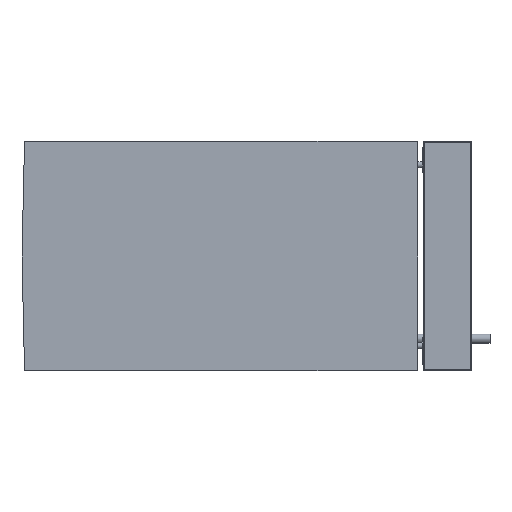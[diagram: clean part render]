
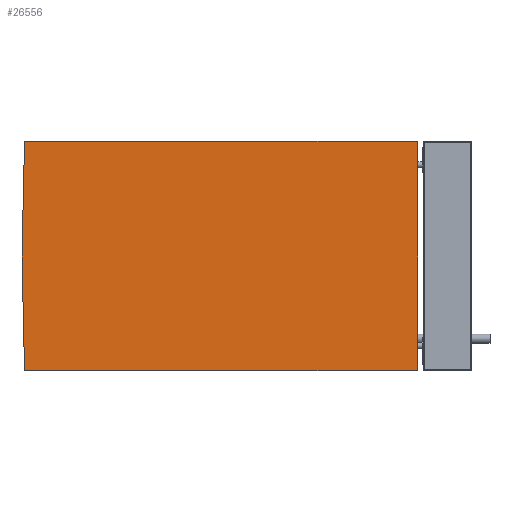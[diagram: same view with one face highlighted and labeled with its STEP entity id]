
A CAD part, left-side view. The second image highlights one B-rep face of the part: STEP entity #26556.
In plain terms, the highlighted planar face has unit normal (-1, 0, 0).
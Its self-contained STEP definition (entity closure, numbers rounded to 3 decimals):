
#1153 = CARTESIAN_POINT ( 'NONE',  ( -575., 1232.738, 0. ) ) ;
#2104 = CARTESIAN_POINT ( 'NONE',  ( -575., 1222.101, 357.478 ) ) ;
#2911 = CIRCLE ( 'NONE', #22946, 2.9 ) ;
#3045 = DIRECTION ( 'NONE',  ( 1., 0., 0. ) ) ;
#3527 = EDGE_CURVE ( 'NONE', #8939, #20782, #12395, .T. ) ;
#4607 = ORIENTED_EDGE ( 'NONE', *, *, #23964, .F. ) ;
#4679 = VECTOR ( 'NONE', #32983, 1000. ) ;
#4836 = VECTOR ( 'NONE', #9681, 1000. ) ;
#5276 = AXIS2_PLACEMENT_3D ( 'NONE', #19622, #3045, #22973 ) ;
#5570 = AXIS2_PLACEMENT_3D ( 'NONE', #23987, #10142, #29737 ) ;
#5662 = CARTESIAN_POINT ( 'NONE',  ( -575., 1222.101, -354.578 ) ) ;
#6937 = EDGE_CURVE ( 'NONE', #35173, #8939, #29107, .T. ) ;
#7478 = EDGE_CURVE ( 'NONE', #14083, #26899, #21479, .T. ) ;
#7587 = VECTOR ( 'NONE', #28577, 1000. ) ;
#7640 = ORIENTED_EDGE ( 'NONE', *, *, #20721, .F. ) ;
#7700 = ORIENTED_EDGE ( 'NONE', *, *, #36523, .F. ) ;
#8939 = VERTEX_POINT ( 'NONE', #15991 ) ;
#9681 = DIRECTION ( 'NONE',  ( 0., 0., -1. ) ) ;
#10142 = DIRECTION ( 'NONE',  ( 1., 0., 0. ) ) ;
#10476 = LINE ( 'NONE', #21707, #4679 ) ;
#10799 = DIRECTION ( 'NONE',  ( 1., 0., 0. ) ) ;
#12306 = EDGE_CURVE ( 'NONE', #12785, #35173, #12724, .T. ) ;
#12395 = CIRCLE ( 'NONE', #5276, 2. ) ;
#12510 = DIRECTION ( 'NONE',  ( -1., 0., 0. ) ) ;
#12724 = CIRCLE ( 'NONE', #31546, 2. ) ;
#12785 = VERTEX_POINT ( 'NONE', #33605 ) ;
#13116 = CARTESIAN_POINT ( 'NONE',  ( -575., 1222.101, -357.478 ) ) ;
#13816 = VECTOR ( 'NONE', #35356, 1000. ) ;
#14083 = VERTEX_POINT ( 'NONE', #32049 ) ;
#14224 = CARTESIAN_POINT ( 'NONE',  ( -575., 0., 355.5 ) ) ;
#15991 = CARTESIAN_POINT ( 'NONE',  ( -575., 0., -355.5 ) ) ;
#17098 = DIRECTION ( 'NONE',  ( 0., 0., 1. ) ) ;
#18199 = PLANE ( 'NONE',  #30982 ) ;
#18220 = ORIENTED_EDGE ( 'NONE', *, *, #12306, .F. ) ;
#18352 = DIRECTION ( 'NONE',  ( 0., 0., 1. ) ) ;
#18359 = EDGE_CURVE ( 'NONE', #23861, #14083, #10476, .T. ) ;
#18595 = ORIENTED_EDGE ( 'NONE', *, *, #30820, .F. ) ;
#19238 = LINE ( 'NONE', #33105, #13816 ) ;
#19485 = CARTESIAN_POINT ( 'NONE',  ( -575., 1222.101, -357.478 ) ) ;
#19622 = CARTESIAN_POINT ( 'NONE',  ( -575., 2., -355.5 ) ) ;
#20169 = CARTESIAN_POINT ( 'NONE',  ( -575., 0., -355.5 ) ) ;
#20512 = EDGE_LOOP ( 'NONE', ( #18220, #7640, #31234, #22920, #4607, #18595, #7700, #30603, #27375 ) ) ;
#20721 = EDGE_CURVE ( 'NONE', #26899, #12785, #19238, .T. ) ;
#20782 = VERTEX_POINT ( 'NONE', #29255 ) ;
#21479 = CIRCLE ( 'NONE', #5570, 2.9 ) ;
#21707 = CARTESIAN_POINT ( 'NONE',  ( -575., 1225., 354.642 ) ) ;
#22022 = DIRECTION ( 'NONE',  ( 0., 0., 1. ) ) ;
#22809 = DIRECTION ( 'NONE',  ( 1., 0., 0. ) ) ;
#22920 = ORIENTED_EDGE ( 'NONE', *, *, #18359, .F. ) ;
#22946 = AXIS2_PLACEMENT_3D ( 'NONE', #5662, #22809, #17098 ) ;
#22973 = DIRECTION ( 'NONE',  ( 0., 0., 1. ) ) ;
#23121 = VERTEX_POINT ( 'NONE', #13116 ) ;
#23861 = VERTEX_POINT ( 'NONE', #1153 ) ;
#23964 = EDGE_CURVE ( 'NONE', #30383, #23861, #35601, .T. ) ;
#23987 = CARTESIAN_POINT ( 'NONE',  ( -575., 1222.101, 354.578 ) ) ;
#24443 = FACE_OUTER_BOUND ( 'NONE', #20512, .T. ) ;
#24801 = CARTESIAN_POINT ( 'NONE',  ( -575., 2., 355.5 ) ) ;
#26556 = ADVANCED_FACE ( 'NONE', ( #24443 ), #18199, .T. ) ;
#26899 = VERTEX_POINT ( 'NONE', #2104 ) ;
#27244 = CARTESIAN_POINT ( 'NONE',  ( -575., 0., 0. ) ) ;
#27375 = ORIENTED_EDGE ( 'NONE', *, *, #6937, .F. ) ;
#27861 = DIRECTION ( 'NONE',  ( 0., 0.022, 1. ) ) ;
#28201 = LINE ( 'NONE', #19485, #7587 ) ;
#28577 = DIRECTION ( 'NONE',  ( 0., 1., 0. ) ) ;
#29107 = LINE ( 'NONE', #20169, #4836 ) ;
#29255 = CARTESIAN_POINT ( 'NONE',  ( -575., 2., -357.5 ) ) ;
#29452 = CARTESIAN_POINT ( 'NONE',  ( -575., 1225., -354.642 ) ) ;
#29737 = DIRECTION ( 'NONE',  ( 0., 0., 1. ) ) ;
#30383 = VERTEX_POINT ( 'NONE', #29452 ) ;
#30603 = ORIENTED_EDGE ( 'NONE', *, *, #3527, .F. ) ;
#30820 = EDGE_CURVE ( 'NONE', #23121, #30383, #2911, .T. ) ;
#30982 = AXIS2_PLACEMENT_3D ( 'NONE', #27244, #12510, #18352 ) ;
#31234 = ORIENTED_EDGE ( 'NONE', *, *, #7478, .F. ) ;
#31365 = VECTOR ( 'NONE', #27861, 1000. ) ;
#31546 = AXIS2_PLACEMENT_3D ( 'NONE', #24801, #10799, #22022 ) ;
#32049 = CARTESIAN_POINT ( 'NONE',  ( -575., 1225., 354.642 ) ) ;
#32983 = DIRECTION ( 'NONE',  ( 0., -0.022, 1. ) ) ;
#33105 = CARTESIAN_POINT ( 'NONE',  ( -575., 1222.101, 357.478 ) ) ;
#33194 = CARTESIAN_POINT ( 'NONE',  ( -575., 1232.738, 0. ) ) ;
#33605 = CARTESIAN_POINT ( 'NONE',  ( -575., 2., 357.5 ) ) ;
#35173 = VERTEX_POINT ( 'NONE', #14224 ) ;
#35356 = DIRECTION ( 'NONE',  ( 0., -1., 0. ) ) ;
#35601 = LINE ( 'NONE', #33194, #31365 ) ;
#36523 = EDGE_CURVE ( 'NONE', #20782, #23121, #28201, .T. ) ;
